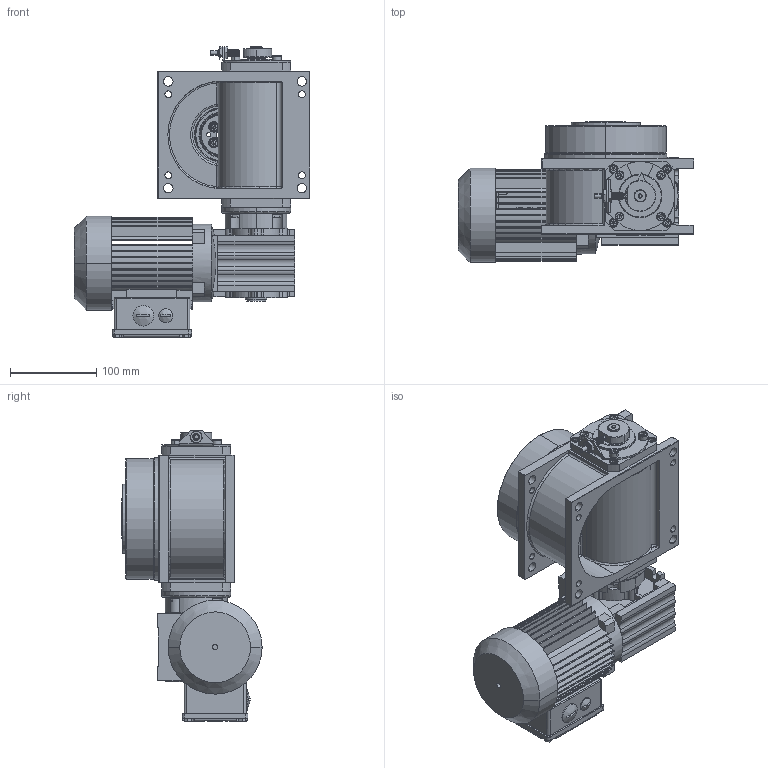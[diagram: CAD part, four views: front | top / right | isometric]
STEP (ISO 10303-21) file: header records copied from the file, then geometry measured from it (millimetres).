
FILE_DESCRIPTION (( 'STEP AP214' ), '1' );
FILE_NAME ('M140_SEW_WAF10DT56L4_D1.STEP', '2021-01-22T15:42:02', ( '' ), ( '' ), 'SwSTEP 2.0', 'SolidWorks 2020', '' );
FILE_SCHEMA (( 'AUTOMOTIVE_DESIGN' ));
Length unit declared in the file: millimetre
Products named in the file (1): M140_SEW_WAF10DT56L4_D1
Bounding box: 273 x 162.7 x 337.29 mm (x, y, z)
Surface area: 401185.5 mm2 (no closed solid volume)
Topology: 0 solids, 50 shells, 1387 faces, 4488 edges, 3003 vertices
Faces by surface type: plane 690, cylinder 496, cone 100, bspline 55, torus 46
Entity records: 70466 total; most frequent: CARTESIAN_POINT 16246, DIRECTION 8175, ORIENTED_EDGE 7649, EDGE_CURVE 4461, VERTEX_POINT 3003, AXIS2_PLACEMENT_3D 2785, LINE 2605, VECTOR 2605
